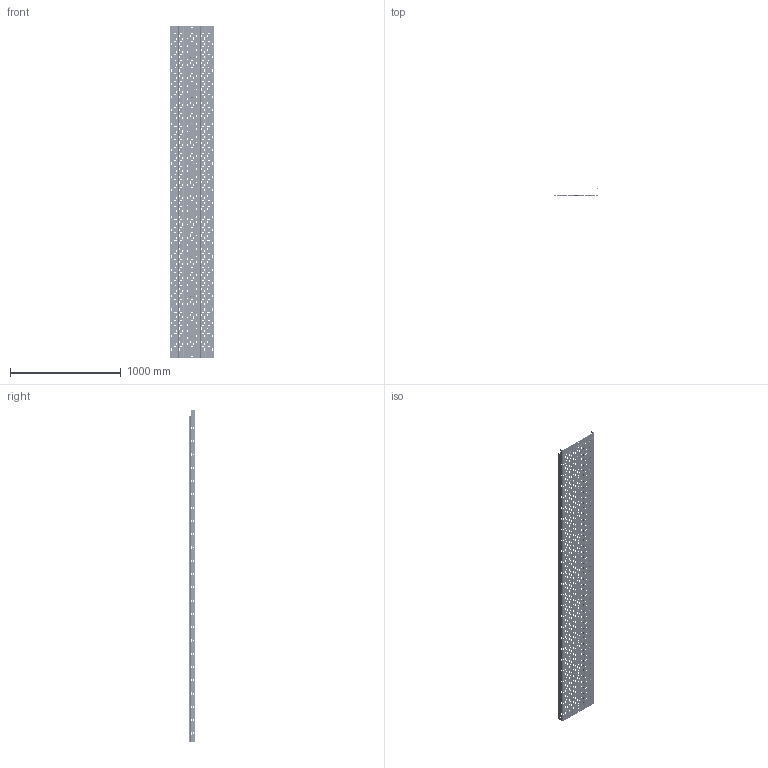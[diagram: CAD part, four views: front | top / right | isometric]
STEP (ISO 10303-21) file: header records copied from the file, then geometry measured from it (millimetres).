
FILE_DESCRIPTION (( 'STEP AP203' ), '1' );
FILE_NAME ('ERE 400x60 400x60.step', '2023-07-27T14:56:30', ( '' ), ( '' ), 'SwSTEP 2.0', 'SolidWorks 2022', '' );
FILE_SCHEMA (( 'CONFIG_CONTROL_DESIGN' ));
Length unit declared in the file: millimetre
Products named in the file (1): ERE 400x60 400x60
Bounding box: 400 x 60.8 x 3000 mm (x, y, z)
Volume: 1185586.7 mm3; surface area: 2997556.2 mm2
Topology: 1 solids, 1 shells, 13996 faces, 41286 edges, 27372 vertices
Faces by surface type: plane 11564, cylinder 2300, torus 68, cone 56, bspline 4, sphere 4
Entity records: 464317 total; most frequent: CARTESIAN_POINT 83049, ORIENTED_EDGE 82572, DIRECTION 73842, EDGE_CURVE 41286, VECTOR 36488, LINE 36488, VERTEX_POINT 27372, AXIS2_PLACEMENT_3D 18677
